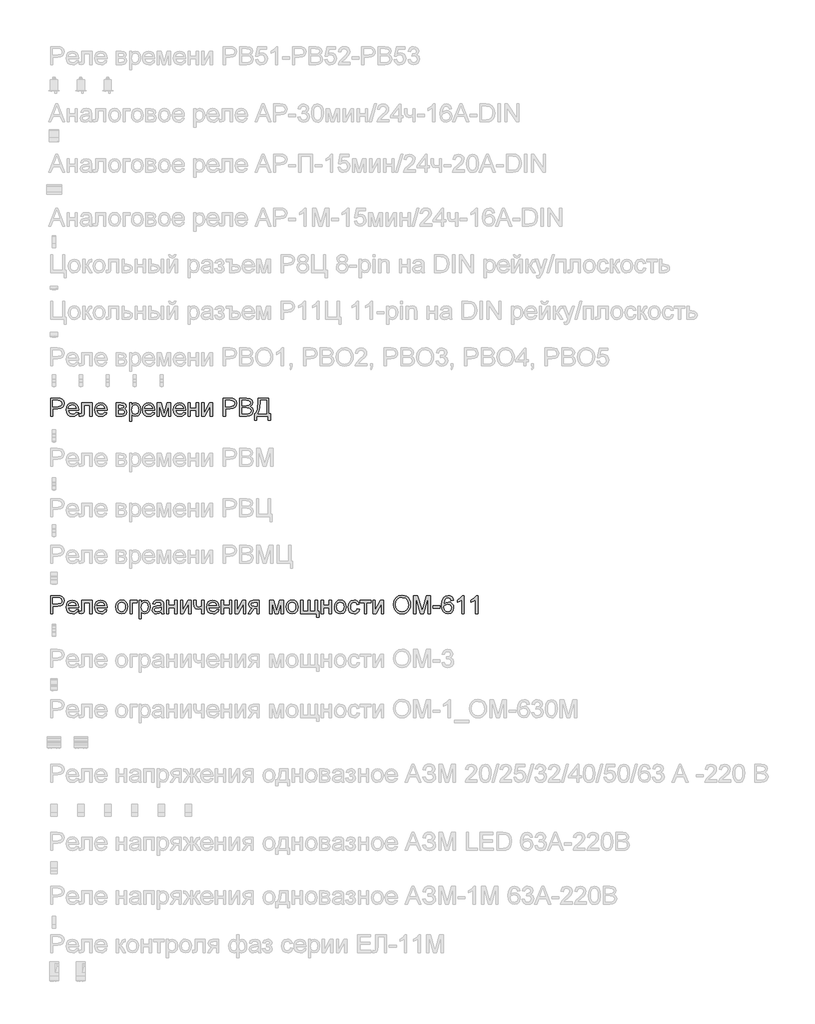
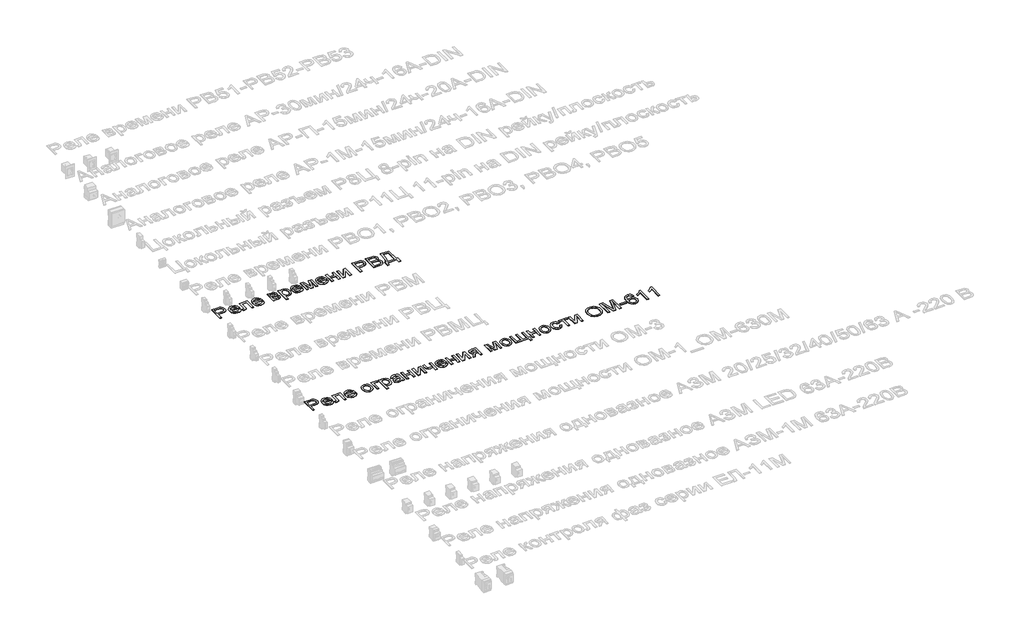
# One storey, part 19 of 34: 2 proxies.
"""IFC4 building model written with IfcOpenShell, lengths in millimetres."""

from ifc_helpers import new_model, si_unit, frame, origin, place, context, project, spatial, polyline, outline, extrude, element, save

model = new_model("IFC4")

# Units and contexts
model_context = context("Model", 3, world=origin())
ifc_project = project(units=[si_unit("LENGTHUNIT", "METRE", prefix="MILLI")], contexts=[model_context])

# Site, building, storey
site = spatial("IfcSite", under=ifc_project)
building = spatial("IfcBuilding", under=site)
storey = spatial("IfcBuildingStorey", under=building, Name="Этаж 01", Elevation=0.0)

# Proxies
placement = place(None, origin())
element("IfcBuildingElementProxy", 1, Name="Надпись на модели 1", ObjectType="Надпись на модели 1", at=placement, inside=storey, context=model_context, shape_type="SweptSolid", body=[
    extrude(outline(polyline([(-19039.0125911, 14316.235284), (-19039.0125911, 14416.6915941), (-19001.7829332, 14416.6915941), (-18986.7733478, 14415.735101), (-18974.5719283, 14411.0384742), (-18966.6624654, 14401.3263895), (-18963.6703585, 14387.6289165), (-18965.6906438, 14375.7892476), (-18971.7514996, 14365.9238788), (-18983.0853308, 14359.2652147), (-19000.9245418, 14357.04566), (-19026.4555523, 14357.04566), (-19026.4555523, 14316.235284), (-19039.0125911, 14316.235284)]), holes=[polyline([(-19026.4555523, 14369.6026988), (-19000.1887779, 14369.6026988), (-18981.6965762, 14374.2134864), (-18977.594692, 14379.7623732), (-18976.2273972, 14387.1874581), (-18979.4524961, 14397.5862559), (-18987.9260447, 14403.2761641), (-19000.4830834, 14404.1345554), (-19026.4555523, 14404.1345554), (-19026.4555523, 14369.6026988)])]), frame((0.0, 0.0, 40.0), z_axis=(0.0, 0.0, 1.0), x_axis=(1.0, 0.0, 0.0)), (0.0, 0.0, 1.0), 2.0),
    extrude(outline(polyline([(-18896.3234279, 14338.2101018), (-18884.0116438, 14336.640472), (-18888.4476875, 14327.3637143), (-18895.5263502, 14320.4291387), (-18905.0882164, 14316.1065253), (-18916.9738705, 14314.6656541), (-18931.7075445, 14317.1519233), (-18943.0444413, 14324.6107308), (-18950.2733225, 14336.5576985), (-18952.6829495, 14352.5084487), (-18950.248797, 14368.9956935), (-18942.9463394, 14381.3258717), (-18931.7627268, 14389.0146054), (-18917.6851091, 14391.5775166), (-18904.0458841, 14389.0207367), (-18893.14738, 14381.3503971), (-18886.0012722, 14369.0447444), (-18883.6192363, 14352.5820251), (-18883.6928127, 14349.1975108), (-18940.1259108, 14349.1975108), (-18937.9523413, 14339.7981258), (-18932.9031609, 14332.8880756), (-18925.6160317, 14328.6390386), (-18916.7286159, 14327.2226929), (-18904.4168318, 14329.8469178), (-18896.3234279, 14338.2101018)]), holes=[polyline([(-18940.1259108, 14361.7545495), (-18896.1762751, 14361.7545495), (-18901.2039957, 14373.1343659), (-18908.5248474, 14377.5489499), (-18917.73416, 14379.0204778), (-18933.1974665, 14374.323851), (-18938.0627059, 14368.8332123), (-18940.1259108, 14361.7545495)])]), frame((0.0, 0.0, 40.0), z_axis=(0.0, 0.0, 1.0), x_axis=(1.0, 0.0, 0.0)), (0.0, 0.0, 1.0), 2.0),
    extrude(outline(polyline([(-18864.7836782, 14390.0078868), (-18808.2770037, 14390.0078868), (-18808.2770037, 14316.3088604), (-18820.8340425, 14316.3088604), (-18820.8340425, 14377.450848), (-18852.2266394, 14377.450848), (-18852.2266394, 14342.2568038), (-18853.072768, 14326.0209451), (-18857.7203439, 14319.1660772), (-18868.7077528, 14316.235284), (-18878.9103468, 14316.8729461), (-18878.9103468, 14328.7923228), (-18873.294015, 14328.7923228), (-18867.6163695, 14329.564875), (-18865.3477639, 14332.0174216), (-18864.7836782, 14342.9680423), (-18864.7836782, 14390.0078868)])), frame((0.0, 0.0, 40.0), z_axis=(0.0, 0.0, 1.0), x_axis=(1.0, 0.0, 0.0)), (0.0, 0.0, 1.0), 2.0),
    extrude(outline(polyline([(-18737.7908134, 14338.2101018), (-18725.4790293, 14336.640472), (-18729.915073, 14327.3637143), (-18736.9937358, 14320.4291387), (-18746.555602, 14316.1065253), (-18758.4412561, 14314.6656541), (-18773.17493, 14317.1519233), (-18784.5118268, 14324.6107308), (-18791.740708, 14336.5576985), (-18794.1503351, 14352.5084487), (-18791.7161826, 14368.9956935), (-18784.4137249, 14381.3258717), (-18773.2301123, 14389.0146054), (-18759.1524946, 14391.5775166), (-18745.5132696, 14389.0207367), (-18734.6147655, 14381.3503971), (-18727.4686578, 14369.0447444), (-18725.0866219, 14352.5820251), (-18725.1601983, 14349.1975108), (-18781.5932963, 14349.1975108), (-18779.4197269, 14339.7981258), (-18774.3705465, 14332.8880756), (-18767.0834173, 14328.6390386), (-18758.1960014, 14327.2226929), (-18745.8842173, 14329.8469178), (-18737.7908134, 14338.2101018)]), holes=[polyline([(-18781.5932963, 14361.7545495), (-18737.6436606, 14361.7545495), (-18742.6713812, 14373.1343659), (-18749.9922329, 14377.5489499), (-18759.2015455, 14379.0204778), (-18774.6648521, 14374.323851), (-18779.5300915, 14368.8332123), (-18781.5932963, 14361.7545495)])]), frame((0.0, 0.0, 40.0), z_axis=(0.0, 0.0, 1.0), x_axis=(1.0, 0.0, 0.0)), (0.0, 0.0, 1.0), 2.0),
    extrude(outline(polyline([(-18673.2888369, 14390.0078868), (-18645.6241109, 14390.0078868), (-18630.45511, 14388.3278923), (-18621.9202477, 14382.1720003), (-18618.3517923, 14371.4421087), (-18620.5100334, 14362.7233055), (-18627.0092819, 14356.5060997), (-18618.5725215, 14349.7002828), (-18615.2125326, 14337.8667453), (-18617.3401168, 14328.2956821), (-18622.3984943, 14321.5573102), (-18630.406059, 14317.5657905), (-18641.3812052, 14316.235284), (-18673.2888369, 14316.235284), (-18673.2888369, 14390.0078868)]), holes=[polyline([(-18660.7317982, 14361.7545495), (-18648.3219122, 14361.7545495), (-18638.08253, 14362.3922117), (-18633.1038603, 14364.9428602), (-18630.9088311, 14369.5536478), (-18634.7593293, 14375.7095399), (-18647.9295047, 14377.450848), (-18660.7317982, 14377.450848), (-18660.7317982, 14361.7545495)]), polyline([(-18660.7317982, 14328.7923228), (-18645.3298053, 14328.7923228), (-18631.6691206, 14331.0609284), (-18627.7695714, 14338.8968149), (-18629.9155497, 14344.9423424), (-18635.507356, 14348.4617468), (-18646.5560786, 14349.1975108), (-18660.7317982, 14349.1975108), (-18660.7317982, 14328.7923228)])]), frame((0.0, 0.0, 40.0), z_axis=(0.0, 0.0, 1.0), x_axis=(1.0, 0.0, 0.0)), (0.0, 0.0, 1.0), 2.0),
    extrude(outline(polyline([(-18599.5162342, 14287.9819468), (-18599.5162342, 14390.0078868), (-18586.9591954, 14390.0078868), (-18586.9591954, 14377.6961027), (-18578.2771803, 14388.1071631), (-18566.5540074, 14391.5775166), (-18550.6369797, 14386.7214743), (-18540.238182, 14373.036264), (-18536.7310403, 14353.6856711), (-18540.6919031, 14333.3417968), (-18552.1943469, 14319.4849083), (-18568.0745863, 14314.6656541), (-18579.0006816, 14317.890753), (-18586.9591954, 14326.0454705), (-18586.9591954, 14287.9819468), (-18599.5162342, 14287.9819468)]), holes=[polyline([(-18586.9591954, 14352.5329742), (-18585.6010977, 14341.2757851), (-18581.5268046, 14333.4031104), (-18575.5149997, 14328.7677973), (-18568.3443664, 14327.2226929), (-18561.0572373, 14328.8229796), (-18554.8921482, 14333.6238396), (-18550.6890964, 14341.7846886), (-18549.2880791, 14353.4649419), (-18550.6553738, 14364.6608173), (-18554.7572581, 14372.6438566), (-18560.759866, 14377.4263225), (-18567.8293317, 14379.0204778), (-18574.9263885, 14377.325155), (-18581.1589226, 14372.2391864), (-18585.5091272, 14363.9219876), (-18586.9591954, 14352.5329742)])]), frame((0.0, 0.0, 40.0), z_axis=(0.0, 0.0, 1.0), x_axis=(1.0, 0.0, 0.0)), (0.0, 0.0, 1.0), 2.0),
    extrude(outline(polyline([(-18470.9537396, 14338.2101018), (-18458.6419555, 14336.640472), (-18463.0779992, 14327.3637143), (-18470.1566619, 14320.4291387), (-18479.7185281, 14316.1065253), (-18491.6041823, 14314.6656541), (-18506.3378562, 14317.1519233), (-18517.674753, 14324.6107308), (-18524.9036342, 14336.5576985), (-18527.3132613, 14352.5084487), (-18524.8791087, 14368.9956935), (-18517.5766511, 14381.3258717), (-18506.3930385, 14389.0146054), (-18492.3154208, 14391.5775166), (-18478.6761958, 14389.0207367), (-18467.7776917, 14381.3503971), (-18460.6315839, 14369.0447444), (-18458.249548, 14352.5820251), (-18458.3231244, 14349.1975108), (-18514.7562225, 14349.1975108), (-18512.582653, 14339.7981258), (-18507.5334726, 14332.8880756), (-18500.2463435, 14328.6390386), (-18491.3589276, 14327.2226929), (-18479.0471435, 14329.8469178), (-18470.9537396, 14338.2101018)]), holes=[polyline([(-18514.7562225, 14361.7545495), (-18470.8065868, 14361.7545495), (-18475.8343074, 14373.1343659), (-18483.1551591, 14377.5489499), (-18492.3644717, 14379.0204778), (-18507.8277782, 14374.323851), (-18512.6930176, 14368.8332123), (-18514.7562225, 14361.7545495)])]), frame((0.0, 0.0, 40.0), z_axis=(0.0, 0.0, 1.0), x_axis=(1.0, 0.0, 0.0)), (0.0, 0.0, 1.0), 2.0),
    extrude(outline(polyline([(-18445.6925093, 14390.0078868), (-18424.0855734, 14390.0078868), (-18407.4327818, 14330.9505638), (-18389.4801404, 14390.0078868), (-18368.7806468, 14390.0078868), (-18368.7806468, 14316.235284), (-18381.3376856, 14316.235284), (-18381.3376856, 14375.6359635), (-18399.3884288, 14316.235284), (-18415.8695422, 14316.235284), (-18433.1354705, 14378.4809176), (-18433.1354705, 14316.235284), (-18445.6925093, 14316.235284), (-18445.6925093, 14390.0078868)])), frame((0.0, 0.0, 40.0), z_axis=(0.0, 0.0, 1.0), x_axis=(1.0, 0.0, 0.0)), (0.0, 0.0, 1.0), 2.0),
    extrude(outline(polyline([(-18298.2944565, 14338.2101018), (-18285.9826724, 14336.640472), (-18290.4187161, 14327.3637143), (-18297.4973789, 14320.4291387), (-18307.0592451, 14316.1065253), (-18318.9448992, 14314.6656541), (-18333.6785731, 14317.1519233), (-18345.0154699, 14324.6107308), (-18352.2443511, 14336.5576985), (-18354.6539782, 14352.5084487), (-18352.2198256, 14368.9956935), (-18344.917368, 14381.3258717), (-18333.7337554, 14389.0146054), (-18319.6561377, 14391.5775166), (-18306.0169127, 14389.0207367), (-18295.1184086, 14381.3503971), (-18287.9723009, 14369.0447444), (-18285.590265, 14352.5820251), (-18285.6638414, 14349.1975108), (-18342.0969394, 14349.1975108), (-18339.92337, 14339.7981258), (-18334.8741896, 14332.8880756), (-18327.5870604, 14328.6390386), (-18318.6996445, 14327.2226929), (-18306.3878604, 14329.8469178), (-18298.2944565, 14338.2101018)]), holes=[polyline([(-18342.0969394, 14361.7545495), (-18298.1473037, 14361.7545495), (-18303.1750243, 14373.1343659), (-18310.495876, 14377.5489499), (-18319.7051886, 14379.0204778), (-18335.1684952, 14374.323851), (-18340.0337346, 14368.8332123), (-18342.0969394, 14361.7545495)])]), frame((0.0, 0.0, 40.0), z_axis=(0.0, 0.0, 1.0), x_axis=(1.0, 0.0, 0.0)), (0.0, 0.0, 1.0), 2.0),
    extrude(outline(polyline([(-18273.0332262, 14390.0078868), (-18260.4761874, 14390.0078868), (-18260.4761874, 14361.7545495), (-18227.5139607, 14361.7545495), (-18227.5139607, 14390.0078868), (-18214.9569219, 14390.0078868), (-18214.9569219, 14316.235284), (-18227.5139607, 14316.235284), (-18227.5139607, 14349.1975108), (-18260.4761874, 14349.1975108), (-18260.4761874, 14316.235284), (-18273.0332262, 14316.235284), (-18273.0332262, 14390.0078868)])), frame((0.0, 0.0, 40.0), z_axis=(0.0, 0.0, 1.0), x_axis=(1.0, 0.0, 0.0)), (0.0, 0.0, 1.0), 2.0),
    extrude(outline(polyline([(-18196.1213637, 14390.0078868), (-18183.564325, 14390.0078868), (-18183.564325, 14333.746467), (-18152.7112883, 14390.0078868), (-18136.4754296, 14390.0078868), (-18136.4754296, 14316.235284), (-18149.0324683, 14316.235284), (-18149.0324683, 14372.1533473), (-18179.6893013, 14316.235284), (-18196.1213637, 14316.235284), (-18196.1213637, 14390.0078868)])), frame((0.0, 0.0, 40.0), z_axis=(0.0, 0.0, 1.0), x_axis=(1.0, 0.0, 0.0)), (0.0, 0.0, 1.0), 2.0),
    extrude(outline(polyline([(-18076.8294954, 14316.235284), (-18076.8294954, 14416.6915941), (-18039.5998375, 14416.6915941), (-18024.5902521, 14415.735101), (-18012.3888326, 14411.0384742), (-18004.4793697, 14401.3263895), (-18001.4872628, 14387.6289165), (-18003.5075481, 14375.7892476), (-18009.568404, 14365.9238788), (-18020.9022351, 14359.2652147), (-18038.7414462, 14357.04566), (-18064.2724567, 14357.04566), (-18064.2724567, 14316.235284), (-18076.8294954, 14316.235284)]), holes=[polyline([(-18064.2724567, 14369.6026988), (-18038.0056822, 14369.6026988), (-18019.5134806, 14374.2134864), (-18015.4115963, 14379.7623732), (-18014.0443016, 14387.1874581), (-18017.2694004, 14397.5862559), (-18025.742949, 14403.2761641), (-18038.2999878, 14404.1345554), (-18064.2724567, 14404.1345554), (-18064.2724567, 14369.6026988)])]), frame((0.0, 0.0, 40.0), z_axis=(0.0, 0.0, 1.0), x_axis=(1.0, 0.0, 0.0)), (0.0, 0.0, 1.0), 2.0),
    extrude(outline(polyline([(-17984.2213345, 14316.235284), (-17984.2213345, 14416.6915941), (-17945.8880306, 14416.6915941), (-17927.1137861, 14413.7362754), (-17916.0282753, 14404.6495902), (-17912.0183616, 14391.7982458), (-17915.3906132, 14380.0628102), (-17925.5809445, 14371.1723286), (-17913.2078467, 14361.8036005), (-17908.8791019, 14346.1808784), (-17911.8344206, 14332.6796092), (-17919.1552723, 14323.0656264), (-17930.0813675, 14317.9643294), (-17946.1823362, 14316.235284), (-17984.2213345, 14316.235284)]), holes=[polyline([(-17971.6642957, 14375.8812181), (-17948.7329847, 14375.8812181), (-17935.3420801, 14376.9603387), (-17927.2854644, 14381.6079145), (-17924.5754004, 14389.7871576), (-17927.1015234, 14397.9786633), (-17934.336536, 14402.8224429), (-17950.4742928, 14404.1345554), (-17971.6642957, 14404.1345554), (-17971.6642957, 14375.8812181)]), polyline([(-17971.6642957, 14328.7923228), (-17945.9125561, 14328.7923228), (-17936.5928789, 14329.2828321), (-17928.7079414, 14332.0174216), (-17923.4840171, 14337.5969652), (-17921.4361407, 14346.0582511), (-17923.8396364, 14355.8193867), (-17931.6264719, 14361.6441849), (-17947.1388294, 14363.3241794), (-17971.6642957, 14363.3241794), (-17971.6642957, 14328.7923228)])]), frame((0.0, 0.0, 40.0), z_axis=(0.0, 0.0, 1.0), x_axis=(1.0, 0.0, 0.0)), (0.0, 0.0, 1.0), 2.0),
    extrude(outline(polyline([(-17882.1953945, 14416.6915941), (-17822.5494604, 14416.6915941), (-17822.5494604, 14328.7923228), (-17813.1316813, 14328.7923228), (-17813.1316813, 14292.6908363), (-17825.6887201, 14292.6908363), (-17825.6887201, 14316.235284), (-17890.0435437, 14316.235284), (-17890.0435437, 14292.6908363), (-17902.6005825, 14292.6908363), (-17902.6005825, 14328.7923228), (-17894.7524333, 14328.7923228), (-17885.3346542, 14356.2056628), (-17882.1953945, 14402.1479926), (-17882.1953945, 14416.6915941)]), holes=[polyline([(-17835.1064991, 14404.1345554), (-17869.6383557, 14404.1345554), (-17869.6383557, 14399.0823093), (-17872.1890042, 14364.67308), (-17875.9659261, 14344.7890582), (-17882.1953945, 14328.7923228), (-17835.1064991, 14328.7923228), (-17835.1064991, 14404.1345554)])]), frame((0.0, 0.0, 40.0), z_axis=(0.0, 0.0, 1.0), x_axis=(1.0, 0.0, 0.0)), (0.0, 0.0, 1.0), 2.0),
])
element("IfcBuildingElementProxy", 2, Name="Надпись на модели 1", ObjectType="Надпись на модели 1", at=placement, inside=storey, context=model_context, shape_type="SweptSolid", body=[
    extrude(outline(polyline([(-19039.0125911, 13216.235284), (-19039.0125911, 13316.6915941), (-19001.7829332, 13316.6915941), (-18986.7733478, 13315.735101), (-18974.5719283, 13311.0384742), (-18966.6624654, 13301.3263895), (-18963.6703585, 13287.6289165), (-18965.6906438, 13275.7892476), (-18971.7514996, 13265.9238788), (-18983.0853308, 13259.2652147), (-19000.9245418, 13257.04566), (-19026.4555523, 13257.04566), (-19026.4555523, 13216.235284), (-19039.0125911, 13216.235284)]), holes=[polyline([(-19026.4555523, 13269.6026988), (-19000.1887779, 13269.6026988), (-18981.6965762, 13274.2134864), (-18977.594692, 13279.7623732), (-18976.2273972, 13287.1874581), (-18979.4524961, 13297.5862559), (-18987.9260447, 13303.2761641), (-19000.4830834, 13304.1345554), (-19026.4555523, 13304.1345554), (-19026.4555523, 13269.6026988)])]), frame((0.0, 0.0, 40.0), z_axis=(0.0, 0.0, 1.0), x_axis=(1.0, 0.0, 0.0)), (0.0, 0.0, 1.0), 2.0),
    extrude(outline(polyline([(-18896.3234279, 13238.2101018), (-18884.0116438, 13236.640472), (-18888.4476875, 13227.3637143), (-18895.5263502, 13220.4291387), (-18905.0882164, 13216.1065253), (-18916.9738705, 13214.6656541), (-18931.7075445, 13217.1519233), (-18943.0444413, 13224.6107308), (-18950.2733225, 13236.5576985), (-18952.6829495, 13252.5084487), (-18950.248797, 13268.9956935), (-18942.9463394, 13281.3258717), (-18931.7627268, 13289.0146054), (-18917.6851091, 13291.5775166), (-18904.0458841, 13289.0207367), (-18893.14738, 13281.3503971), (-18886.0012722, 13269.0447444), (-18883.6192363, 13252.5820251), (-18883.6928127, 13249.1975108), (-18940.1259108, 13249.1975108), (-18937.9523413, 13239.7981258), (-18932.9031609, 13232.8880756), (-18925.6160317, 13228.6390386), (-18916.7286159, 13227.2226929), (-18904.4168318, 13229.8469178), (-18896.3234279, 13238.2101018)]), holes=[polyline([(-18940.1259108, 13261.7545495), (-18896.1762751, 13261.7545495), (-18901.2039957, 13273.1343659), (-18908.5248474, 13277.5489499), (-18917.73416, 13279.0204778), (-18933.1974665, 13274.323851), (-18938.0627059, 13268.8332123), (-18940.1259108, 13261.7545495)])]), frame((0.0, 0.0, 40.0), z_axis=(0.0, 0.0, 1.0), x_axis=(1.0, 0.0, 0.0)), (0.0, 0.0, 1.0), 2.0),
    extrude(outline(polyline([(-18864.7836782, 13290.0078868), (-18808.2770037, 13290.0078868), (-18808.2770037, 13216.3088604), (-18820.8340425, 13216.3088604), (-18820.8340425, 13277.450848), (-18852.2266394, 13277.450848), (-18852.2266394, 13242.2568038), (-18853.072768, 13226.0209451), (-18857.7203439, 13219.1660772), (-18868.7077528, 13216.235284), (-18878.9103468, 13216.8729461), (-18878.9103468, 13228.7923228), (-18873.294015, 13228.7923228), (-18867.6163695, 13229.564875), (-18865.3477639, 13232.0174216), (-18864.7836782, 13242.9680423), (-18864.7836782, 13290.0078868)])), frame((0.0, 0.0, 40.0), z_axis=(0.0, 0.0, 1.0), x_axis=(1.0, 0.0, 0.0)), (0.0, 0.0, 1.0), 2.0),
    extrude(outline(polyline([(-18737.7908134, 13238.2101018), (-18725.4790293, 13236.640472), (-18729.915073, 13227.3637143), (-18736.9937358, 13220.4291387), (-18746.555602, 13216.1065253), (-18758.4412561, 13214.6656541), (-18773.17493, 13217.1519233), (-18784.5118268, 13224.6107308), (-18791.740708, 13236.5576985), (-18794.1503351, 13252.5084487), (-18791.7161826, 13268.9956935), (-18784.4137249, 13281.3258717), (-18773.2301123, 13289.0146054), (-18759.1524946, 13291.5775166), (-18745.5132696, 13289.0207367), (-18734.6147655, 13281.3503971), (-18727.4686578, 13269.0447444), (-18725.0866219, 13252.5820251), (-18725.1601983, 13249.1975108), (-18781.5932963, 13249.1975108), (-18779.4197269, 13239.7981258), (-18774.3705465, 13232.8880756), (-18767.0834173, 13228.6390386), (-18758.1960014, 13227.2226929), (-18745.8842173, 13229.8469178), (-18737.7908134, 13238.2101018)]), holes=[polyline([(-18781.5932963, 13261.7545495), (-18737.6436606, 13261.7545495), (-18742.6713812, 13273.1343659), (-18749.9922329, 13277.5489499), (-18759.2015455, 13279.0204778), (-18774.6648521, 13274.323851), (-18779.5300915, 13268.8332123), (-18781.5932963, 13261.7545495)])]), frame((0.0, 0.0, 40.0), z_axis=(0.0, 0.0, 1.0), x_axis=(1.0, 0.0, 0.0)), (0.0, 0.0, 1.0), 2.0),
    extrude(outline(polyline([(-18676.4280966, 13253.1215854), (-18673.7119012, 13270.9086798), (-18665.563315, 13283.4105363), (-18655.4956111, 13289.5357715), (-18643.4413444, 13291.5775166), (-18630.2497092, 13289.0912475), (-18619.7129557, 13281.63244), (-18612.8059712, 13269.7897054), (-18610.5036431, 13254.151655), (-18614.5748705, 13231.8089551), (-18626.4329335, 13219.1660772), (-18643.4413444, 13214.6656541), (-18656.7923951, 13217.1427262), (-18667.3168859, 13224.5739426), (-18674.1502939, 13236.6649975), (-18676.4280966, 13253.1215854)]), holes=[polyline([(-18663.8710579, 13253.1461108), (-18662.417924, 13241.7816229), (-18658.0585223, 13233.6851533), (-18651.4979601, 13228.838308), (-18643.4413444, 13227.2226929), (-18635.4215169, 13228.8475051), (-18628.8732174, 13233.7219415), (-18624.5138157, 13241.92571), (-18623.0606819, 13253.5385183), (-18624.5230128, 13264.5719125), (-18628.9100056, 13272.5580175), (-18635.4675022, 13277.4048627), (-18643.4413444, 13279.0204778), (-18651.4979601, 13277.4109941), (-18658.0585223, 13272.5825429), (-18662.417924, 13264.5044674), (-18663.8710579, 13253.1461108)])]), frame((0.0, 0.0, 40.0), z_axis=(0.0, 0.0, 1.0), x_axis=(1.0, 0.0, 0.0)), (0.0, 0.0, 1.0), 2.0),
    extrude(outline(polyline([(-18596.3769745, 13290.0078868), (-18555.5665985, 13290.0078868), (-18555.5665985, 13277.450848), (-18583.8199357, 13277.450848), (-18583.8199357, 13216.235284), (-18596.3769745, 13216.235284), (-18596.3769745, 13290.0078868)])), frame((0.0, 0.0, 40.0), z_axis=(0.0, 0.0, 1.0), x_axis=(1.0, 0.0, 0.0)), (0.0, 0.0, 1.0), 2.0),
    extrude(outline(polyline([(-18546.1488194, 13187.9819468), (-18546.1488194, 13290.0078868), (-18533.5917806, 13290.0078868), (-18533.5917806, 13277.6961027), (-18524.9097656, 13288.1071631), (-18513.1865926, 13291.5775166), (-18497.269565, 13286.7214743), (-18486.8707672, 13273.036264), (-18483.3636256, 13253.6856711), (-18487.3244884, 13233.3417968), (-18498.8269321, 13219.4849083), (-18514.7071716, 13214.6656541), (-18525.6332668, 13217.890753), (-18533.5917806, 13226.0454705), (-18533.5917806, 13187.9819468), (-18546.1488194, 13187.9819468)]), holes=[polyline([(-18533.5917806, 13252.5329742), (-18532.2336829, 13241.2757851), (-18528.1593898, 13233.4031104), (-18522.1475849, 13228.7677973), (-18514.9769517, 13227.2226929), (-18507.6898225, 13228.8229796), (-18501.5247334, 13233.6238396), (-18497.3216816, 13241.7846886), (-18495.9206643, 13253.4649419), (-18497.2879591, 13264.6608173), (-18501.3898433, 13272.6438566), (-18507.3924512, 13277.4263225), (-18514.4619169, 13279.0204778), (-18521.5589737, 13277.325155), (-18527.7915078, 13272.2391864), (-18532.1417124, 13263.9219876), (-18533.5917806, 13252.5329742)])]), frame((0.0, 0.0, 40.0), z_axis=(0.0, 0.0, 1.0), x_axis=(1.0, 0.0, 0.0)), (0.0, 0.0, 1.0), 2.0),
    extrude(outline(polyline([(-18422.1480616, 13225.6530631), (-18434.3249556, 13217.1427262), (-18447.7771739, 13214.6656541), (-18458.2710078, 13216.1555762), (-18466.0118581, 13220.6253425), (-18470.785127, 13227.4127653), (-18472.3762166, 13235.8556571), (-18469.9727209, 13245.7884709), (-18463.6574134, 13252.998958), (-18454.8650337, 13257.1192364), (-18444.0002521, 13259.0076973), (-18422.221638, 13263.3241794), (-18422.1480616, 13266.1200825), (-18425.6061523, 13275.3907088), (-18439.4875663, 13279.0204778), (-18452.1917578, 13276.6047194), (-18458.249548, 13268.0330689), (-18470.8065868, 13269.6026988), (-18465.374196, 13281.8654319), (-18454.435838, 13289.0513936), (-18437.8688855, 13291.5775166), (-18422.6508336, 13289.3456992), (-18414.0546577, 13283.7416301), (-18410.2041595, 13275.2190306), (-18409.5910228, 13264.2316216), (-18409.5910228, 13248.6088996), (-18408.9533607, 13226.7934973), (-18406.4517631, 13216.235284), (-18419.0088019, 13216.235284), (-18422.1480616, 13225.6530631)]), holes=[polyline([(-18422.1480616, 13250.7671406), (-18442.4060968, 13246.9166424), (-18453.2095647, 13244.8810287), (-18458.1023952, 13241.5700907), (-18459.8191779, 13236.7385739), (-18456.0790443, 13229.9450197), (-18445.1038981, 13227.2226929), (-18432.3997065, 13230.2270625), (-18424.2082007, 13237.4988633), (-18422.221638, 13247.210948), (-18422.1480616, 13250.7671406)])]), frame((0.0, 0.0, 40.0), z_axis=(0.0, 0.0, 1.0), x_axis=(1.0, 0.0, 0.0)), (0.0, 0.0, 1.0), 2.0),
    extrude(outline(polyline([(-18392.3250945, 13290.0078868), (-18379.7680557, 13290.0078868), (-18379.7680557, 13261.7545495), (-18346.805829, 13261.7545495), (-18346.805829, 13290.0078868), (-18334.2487902, 13290.0078868), (-18334.2487902, 13216.235284), (-18346.805829, 13216.235284), (-18346.805829, 13249.1975108), (-18379.7680557, 13249.1975108), (-18379.7680557, 13216.235284), (-18392.3250945, 13216.235284), (-18392.3250945, 13290.0078868)])), frame((0.0, 0.0, 40.0), z_axis=(0.0, 0.0, 1.0), x_axis=(1.0, 0.0, 0.0)), (0.0, 0.0, 1.0), 2.0),
    extrude(outline(polyline([(-18315.413232, 13290.0078868), (-18302.8561933, 13290.0078868), (-18302.8561933, 13233.746467), (-18272.0031566, 13290.0078868), (-18255.7672979, 13290.0078868), (-18255.7672979, 13216.235284), (-18268.3243366, 13216.235284), (-18268.3243366, 13272.1533473), (-18298.9811696, 13216.235284), (-18315.413232, 13216.235284), (-18315.413232, 13290.0078868)])), frame((0.0, 0.0, 40.0), z_axis=(0.0, 0.0, 1.0), x_axis=(1.0, 0.0, 0.0)), (0.0, 0.0, 1.0), 2.0),
    extrude(outline(polyline([(-18241.6406293, 13290.0078868), (-18229.0835905, 13290.0078868), (-18229.0835905, 13275.8566927), (-18228.0657836, 13262.5884154), (-18223.1729531, 13255.4024537), (-18213.4608684, 13252.3367705), (-18196.1213637, 13256.1382177), (-18196.1213637, 13290.0078868), (-18183.564325, 13290.0078868), (-18183.564325, 13216.235284), (-18196.1213637, 13216.235284), (-18196.1213637, 13244.0962138), (-18216.8208573, 13239.7797317), (-18231.0578905, 13244.2801548), (-18239.4333373, 13255.3043519), (-18241.6406293, 13269.6517497), (-18241.6406293, 13290.0078868)])), frame((0.0, 0.0, 40.0), z_axis=(0.0, 0.0, 1.0), x_axis=(1.0, 0.0, 0.0)), (0.0, 0.0, 1.0), 2.0),
    extrude(outline(polyline([(-18113.0781347, 13238.2101018), (-18100.7663506, 13236.640472), (-18105.2023943, 13227.3637143), (-18112.281057, 13220.4291387), (-18121.8429232, 13216.1065253), (-18133.7285773, 13214.6656541), (-18148.4622513, 13217.1519233), (-18159.7991481, 13224.6107308), (-18167.0280293, 13236.5576985), (-18169.4376563, 13252.5084487), (-18167.0035038, 13268.9956935), (-18159.7010462, 13281.3258717), (-18148.5174336, 13289.0146054), (-18134.4398159, 13291.5775166), (-18120.8005909, 13289.0207367), (-18109.9020868, 13281.3503971), (-18102.755979, 13269.0447444), (-18100.3739431, 13252.5820251), (-18100.4475195, 13249.1975108), (-18156.8806176, 13249.1975108), (-18154.7070481, 13239.7981258), (-18149.6578677, 13232.8880756), (-18142.3707385, 13228.6390386), (-18133.4833227, 13227.2226929), (-18121.1715386, 13229.8469178), (-18113.0781347, 13238.2101018)]), holes=[polyline([(-18156.8806176, 13261.7545495), (-18112.9309819, 13261.7545495), (-18117.9587025, 13273.1343659), (-18125.2795542, 13277.5489499), (-18134.4888668, 13279.0204778), (-18149.9521733, 13274.323851), (-18154.8174127, 13268.8332123), (-18156.8806176, 13261.7545495)])]), frame((0.0, 0.0, 40.0), z_axis=(0.0, 0.0, 1.0), x_axis=(1.0, 0.0, 0.0)), (0.0, 0.0, 1.0), 2.0),
    extrude(outline(polyline([(-18087.8169043, 13290.0078868), (-18075.2598656, 13290.0078868), (-18075.2598656, 13261.7545495), (-18042.2976388, 13261.7545495), (-18042.2976388, 13290.0078868), (-18029.7406, 13290.0078868), (-18029.7406, 13216.235284), (-18042.2976388, 13216.235284), (-18042.2976388, 13249.1975108), (-18075.2598656, 13249.1975108), (-18075.2598656, 13216.235284), (-18087.8169043, 13216.235284), (-18087.8169043, 13290.0078868)])), frame((0.0, 0.0, 40.0), z_axis=(0.0, 0.0, 1.0), x_axis=(1.0, 0.0, 0.0)), (0.0, 0.0, 1.0), 2.0),
    extrude(outline(polyline([(-18010.9050419, 13290.0078868), (-17998.3480031, 13290.0078868), (-17998.3480031, 13233.746467), (-17967.4949665, 13290.0078868), (-17951.2591077, 13290.0078868), (-17951.2591077, 13216.235284), (-17963.8161465, 13216.235284), (-17963.8161465, 13272.1533473), (-17994.4729794, 13216.235284), (-18010.9050419, 13216.235284), (-18010.9050419, 13290.0078868)])), frame((0.0, 0.0, 40.0), z_axis=(0.0, 0.0, 1.0), x_axis=(1.0, 0.0, 0.0)), (0.0, 0.0, 1.0), 2.0),
    extrude(outline(polyline([(-17875.9168751, 13290.0078868), (-17875.9168751, 13216.235284), (-17888.4739139, 13216.235284), (-17888.4739139, 13244.4886212), (-17895.316519, 13244.4886212), (-17904.6361962, 13242.8944659), (-17913.3917877, 13232.1768371), (-17923.398178, 13216.235284), (-17937.917254, 13216.235284), (-17925.3111643, 13236.3952173), (-17914.618061, 13246.843066), (-17923.2019742, 13249.4734223), (-17929.235239, 13254.470486), (-17933.9931794, 13268.6952565), (-17932.3683673, 13277.2914325), (-17927.4939309, 13284.0972494), (-17919.5415484, 13288.5302274), (-17908.6828982, 13290.0078868), (-17875.9168751, 13290.0078868)]), holes=[polyline([(-17888.4739139, 13277.450848), (-17905.0286037, 13277.450848), (-17918.431771, 13274.5445802), (-17921.4361407, 13267.7387633), (-17917.009294, 13259.6330967), (-17901.3252583, 13257.04566), (-17888.4739139, 13257.04566), (-17888.4739139, 13277.450848)])]), frame((0.0, 0.0, 40.0), z_axis=(0.0, 0.0, 1.0), x_axis=(1.0, 0.0, 0.0)), (0.0, 0.0, 1.0), 2.0),
    extrude(outline(polyline([(-17817.8405708, 13290.0078868), (-17796.233635, 13290.0078868), (-17779.5808433, 13230.9505638), (-17761.628202, 13290.0078868), (-17740.9287084, 13290.0078868), (-17740.9287084, 13216.235284), (-17753.4857471, 13216.235284), (-17753.4857471, 13275.6359635), (-17771.5364904, 13216.235284), (-17788.0176037, 13216.235284), (-17805.2835321, 13278.4809176), (-17805.2835321, 13216.235284), (-17817.8405708, 13216.235284), (-17817.8405708, 13290.0078868)])), frame((0.0, 0.0, 40.0), z_axis=(0.0, 0.0, 1.0), x_axis=(1.0, 0.0, 0.0)), (0.0, 0.0, 1.0), 2.0),
    extrude(outline(polyline([(-17725.2324099, 13253.1215854), (-17722.5162145, 13270.9086798), (-17714.3676283, 13283.4105363), (-17704.2999244, 13289.5357715), (-17692.2456577, 13291.5775166), (-17679.0540225, 13289.0912475), (-17668.517269, 13281.63244), (-17661.6102845, 13269.7897054), (-17659.3079564, 13254.151655), (-17663.3791838, 13231.8089551), (-17675.2372468, 13219.1660772), (-17692.2456577, 13214.6656541), (-17705.5967084, 13217.1427262), (-17716.1211992, 13224.5739426), (-17722.9546072, 13236.6649975), (-17725.2324099, 13253.1215854)]), holes=[polyline([(-17712.6753711, 13253.1461108), (-17711.2222373, 13241.7816229), (-17706.8628356, 13233.6851533), (-17700.3022734, 13228.838308), (-17692.2456577, 13227.2226929), (-17684.2258302, 13228.8475051), (-17677.6775307, 13233.7219415), (-17673.318129, 13241.92571), (-17671.8649951, 13253.5385183), (-17673.3273261, 13264.5719125), (-17677.7143189, 13272.5580175), (-17684.2718154, 13277.4048627), (-17692.2456577, 13279.0204778), (-17700.3022734, 13277.4109941), (-17706.8628356, 13272.5825429), (-17711.2222373, 13264.5044674), (-17712.6753711, 13253.1461108)])]), frame((0.0, 0.0, 40.0), z_axis=(0.0, 0.0, 1.0), x_axis=(1.0, 0.0, 0.0)), (0.0, 0.0, 1.0), 2.0),
    extrude(outline(polyline([(-17645.1812878, 13290.0078868), (-17632.624249, 13290.0078868), (-17632.624249, 13228.7923228), (-17604.3709118, 13228.7923228), (-17604.3709118, 13290.0078868), (-17591.813873, 13290.0078868), (-17591.813873, 13228.7923228), (-17563.5605358, 13228.7923228), (-17563.5605358, 13290.0078868), (-17551.003497, 13290.0078868), (-17551.003497, 13228.7923228), (-17543.1553478, 13228.7923228), (-17543.1553478, 13195.830096), (-17555.7123865, 13195.830096), (-17555.7123865, 13216.235284), (-17645.1812878, 13216.235284), (-17645.1812878, 13290.0078868)])), frame((0.0, 0.0, 40.0), z_axis=(0.0, 0.0, 1.0), x_axis=(1.0, 0.0, 0.0)), (0.0, 0.0, 1.0), 2.0),
    extrude(outline(polyline([(-17530.598309, 13290.0078868), (-17518.0412702, 13290.0078868), (-17518.0412702, 13261.7545495), (-17485.0790435, 13261.7545495), (-17485.0790435, 13290.0078868), (-17472.5220047, 13290.0078868), (-17472.5220047, 13216.235284), (-17485.0790435, 13216.235284), (-17485.0790435, 13249.1975108), (-17518.0412702, 13249.1975108), (-17518.0412702, 13216.235284), (-17530.598309, 13216.235284), (-17530.598309, 13290.0078868)])), frame((0.0, 0.0, 40.0), z_axis=(0.0, 0.0, 1.0), x_axis=(1.0, 0.0, 0.0)), (0.0, 0.0, 1.0), 2.0),
    extrude(outline(polyline([(-17456.8257062, 13253.1215854), (-17454.1095108, 13270.9086798), (-17445.9609246, 13283.4105363), (-17435.8932207, 13289.5357715), (-17423.838954, 13291.5775166), (-17410.6473188, 13289.0912475), (-17400.1105653, 13281.63244), (-17393.2035808, 13269.7897054), (-17390.9012527, 13254.151655), (-17394.9724801, 13231.8089551), (-17406.8305431, 13219.1660772), (-17423.838954, 13214.6656541), (-17437.1900047, 13217.1427262), (-17447.7144955, 13224.5739426), (-17454.5479035, 13236.6649975), (-17456.8257062, 13253.1215854)]), holes=[polyline([(-17444.2686675, 13253.1461108), (-17442.8155336, 13241.7816229), (-17438.4561319, 13233.6851533), (-17431.8955697, 13228.838308), (-17423.838954, 13227.2226929), (-17415.8191265, 13228.8475051), (-17409.270827, 13233.7219415), (-17404.9114253, 13241.92571), (-17403.4582915, 13253.5385183), (-17404.9206224, 13264.5719125), (-17409.3076152, 13272.5580175), (-17415.8651117, 13277.4048627), (-17423.838954, 13279.0204778), (-17431.8955697, 13277.4109941), (-17438.4561319, 13272.5825429), (-17442.8155336, 13264.5044674), (-17444.2686675, 13253.1461108)])]), frame((0.0, 0.0, 40.0), z_axis=(0.0, 0.0, 1.0), x_axis=(1.0, 0.0, 0.0)), (0.0, 0.0, 1.0), 2.0),
    extrude(outline(polyline([(-17329.6856887, 13242.9189914), (-17317.1286499, 13241.3493615), (-17320.6296602, 13230.1810773), (-17327.2086166, 13221.7412512), (-17336.2462509, 13216.4345534), (-17347.1232953, 13214.6656541), (-17360.4804774, 13217.1335292), (-17370.9252603, 13224.5371544), (-17377.6666979, 13236.5515672), (-17379.9138438, 13252.8518052), (-17376.0756083, 13273.7107144), (-17364.3769608, 13287.1138817), (-17347.2949735, 13291.5775166), (-17336.6846436, 13290.044675), (-17328.201898, 13285.44615), (-17322.1165166, 13278.0271964), (-17318.6982798, 13268.0330689), (-17331.2553185, 13266.4634391), (-17337.0801168, 13275.8689554), (-17347.1968717, 13279.0204778), (-17355.3117353, 13277.4692421), (-17361.7527359, 13272.8155349), (-17365.9557877, 13264.8079701), (-17367.356805, 13253.1951618), (-17365.9864446, 13241.4260036), (-17361.8753633, 13233.3908477), (-17355.5508586, 13228.7647316), (-17347.5402282, 13227.2226929), (-17335.7066907, 13231.0731911), (-17329.6856887, 13242.9189914)])), frame((0.0, 0.0, 40.0), z_axis=(0.0, 0.0, 1.0), x_axis=(1.0, 0.0, 0.0)), (0.0, 0.0, 1.0), 2.0),
    extrude(outline(polyline([(-17312.4197604, 13290.0078868), (-17252.7738262, 13290.0078868), (-17252.7738262, 13277.450848), (-17276.3182739, 13277.450848), (-17276.3182739, 13216.235284), (-17288.8753127, 13216.235284), (-17288.8753127, 13277.450848), (-17312.4197604, 13277.450848), (-17312.4197604, 13290.0078868)])), frame((0.0, 0.0, 40.0), z_axis=(0.0, 0.0, 1.0), x_axis=(1.0, 0.0, 0.0)), (0.0, 0.0, 1.0), 2.0),
    extrude(outline(polyline([(-17241.7864173, 13290.0078868), (-17229.2293785, 13290.0078868), (-17229.2293785, 13233.746467), (-17198.3763419, 13290.0078868), (-17182.1404832, 13290.0078868), (-17182.1404832, 13216.235284), (-17194.6975219, 13216.235284), (-17194.6975219, 13272.1533473), (-17225.3543549, 13216.235284), (-17241.7864173, 13216.235284), (-17241.7864173, 13290.0078868)])), frame((0.0, 0.0, 40.0), z_axis=(0.0, 0.0, 1.0), x_axis=(1.0, 0.0, 0.0)), (0.0, 0.0, 1.0), 2.0),
    extrude(outline(polyline([(-17127.2034385, 13265.1390639), (-17123.8557124, 13287.353005), (-17113.8125339, 13304.1590808), (-17098.4779861, 13314.7356882), (-17079.2561518, 13318.261224), (-17066.079845, 13316.605755), (-17054.2647016, 13311.6393481), (-17044.4545151, 13303.7114911), (-17037.2930789, 13293.1716719), (-17032.9152832, 13280.528794), (-17031.4560179, 13266.2917608), (-17032.9919253, 13251.8646552), (-17037.5996473, 13239.0439677), (-17045.0247322, 13228.4857544), (-17055.0127284, 13220.8460717), (-17066.7267042, 13216.2107585), (-17079.3297282, 13214.6656541), (-17092.7083701, 13216.3732397), (-17104.5909586, 13221.4959965), (-17114.3766196, 13229.5710063), (-17121.4644794, 13240.1353509), (-17127.2034385, 13265.1390639)]), holes=[polyline([(-17114.6463998, 13265.0164366), (-17112.1356052, 13249.301744), (-17104.6032213, 13237.327185), (-17093.2816529, 13229.7488159), (-17079.4033046, 13227.2226929), (-17065.3226213, 13229.7733414), (-17053.9826588, 13237.4252869), (-17046.5054572, 13249.7677279), (-17044.0130567, 13266.3898627), (-17048.2804878, 13287.1138817), (-17060.7516875, 13300.8358802), (-17079.1825754, 13305.7041852), (-17092.689976, 13303.3589375), (-17104.1740256, 13296.3231943), (-17112.0283062, 13283.8060095), (-17114.6463998, 13265.0164366)])]), frame((0.0, 0.0, 40.0), z_axis=(0.0, 0.0, 1.0), x_axis=(1.0, 0.0, 0.0)), (0.0, 0.0, 1.0), 2.0),
    extrude(outline(polyline([(-17014.1900896, 13216.235284), (-17014.1900896, 13316.6915941), (-16992.5831538, 13316.6915941), (-16972.030813, 13245.8865728), (-16967.8860092, 13231.0977166), (-16963.3978488, 13247.1128461), (-16943.1888646, 13316.6915941), (-16921.5819287, 13316.6915941), (-16921.5819287, 13216.235284), (-16934.1389675, 13216.235284), (-16934.1389675, 13304.1345554), (-16959.3756723, 13216.235284), (-16976.396346, 13216.235284), (-17001.6330509, 13304.1345554), (-17001.6330509, 13216.235284), (-17014.1900896, 13216.235284)])), frame((0.0, 0.0, 40.0), z_axis=(0.0, 0.0, 1.0), x_axis=(1.0, 0.0, 0.0)), (0.0, 0.0, 1.0), 2.0),
    extrude(outline(polyline([(-16907.4552601, 13246.0582511), (-16907.4552601, 13258.6152898), (-16868.2145139, 13258.6152898), (-16868.2145139, 13246.0582511), (-16907.4552601, 13246.0582511)])), frame((0.0, 0.0, 40.0), z_axis=(0.0, 0.0, 1.0), x_axis=(1.0, 0.0, 0.0)), (0.0, 0.0, 1.0), 2.0),
    extrude(outline(polyline([(-16792.8722813, 13290.0078868), (-16805.4293201, 13288.4382569), (-16810.1872606, 13298.910631), (-16822.7688248, 13304.1345554), (-16834.0995903, 13301.0933975), (-16842.6712407, 13289.676793), (-16846.2396961, 13267.2973049), (-16835.166448, 13277.3159579), (-16821.4444496, 13280.5901077), (-16809.843904, 13278.3521589), (-16800.1072939, 13271.6383125), (-16793.5038121, 13261.3805362), (-16791.3026515, 13248.5107977), (-16795.4474553, 13231.1835557), (-16806.8517971, 13218.9208226), (-16823.3083851, 13214.6656541), (-16837.5546153, 13217.4860828), (-16848.9007092, 13225.9473687), (-16856.3227284, 13240.8833777), (-16858.7967349, 13263.1279756), (-16856.0498826, 13288.13782), (-16847.8093259, 13305.2382014), (-16836.5582683, 13313.8282459), (-16821.9840099, 13316.6915941), (-16810.9659441, 13314.9196292), (-16802.1429076, 13309.6037344), (-16795.9624901, 13301.1608426), (-16792.8722813, 13290.0078868)]), holes=[polyline([(-16846.2396961, 13248.7070014), (-16843.3334283, 13237.8299571), (-16835.6079064, 13229.9327569), (-16824.2894037, 13227.2226929), (-16816.0028618, 13228.6267759), (-16809.4882848, 13232.8390247), (-16805.2668389, 13239.4609006), (-16803.8596902, 13248.0938648), (-16805.2484448, 13256.3804067), (-16809.4147084, 13262.69878), (-16816.03965, 13266.6994967), (-16824.8044385, 13268.0330689), (-16839.9979649, 13262.69878), (-16844.6792633, 13256.5336909), (-16846.2396961, 13248.7070014)])]), frame((0.0, 0.0, 40.0), z_axis=(0.0, 0.0, 1.0), x_axis=(1.0, 0.0, 0.0)), (0.0, 0.0, 1.0), 2.0),
    extrude(outline(polyline([(-16733.2263472, 13216.235284), (-16745.7833859, 13216.235284), (-16745.7833859, 13294.5205726), (-16757.6782371, 13286.0470239), (-16770.8974635, 13279.7071909), (-16770.8974635, 13291.5775166), (-16752.491101, 13303.325215), (-16741.3197511, 13316.6915941), (-16733.2263472, 13316.6915941), (-16733.2263472, 13216.235284)])), frame((0.0, 0.0, 40.0), z_axis=(0.0, 0.0, 1.0), x_axis=(1.0, 0.0, 0.0)), (0.0, 0.0, 1.0), 2.0),
    extrude(outline(polyline([(-16656.3144847, 13216.235284), (-16668.8715235, 13216.235284), (-16668.8715235, 13294.5205726), (-16680.7663747, 13286.0470239), (-16693.985601, 13279.7071909), (-16693.985601, 13291.5775166), (-16675.5792385, 13303.325215), (-16664.4078886, 13316.6915941), (-16656.3144847, 13316.6915941), (-16656.3144847, 13216.235284)])), frame((0.0, 0.0, 40.0), z_axis=(0.0, 0.0, 1.0), x_axis=(1.0, 0.0, 0.0)), (0.0, 0.0, 1.0), 2.0),
])

save(model, "model.ifc")
